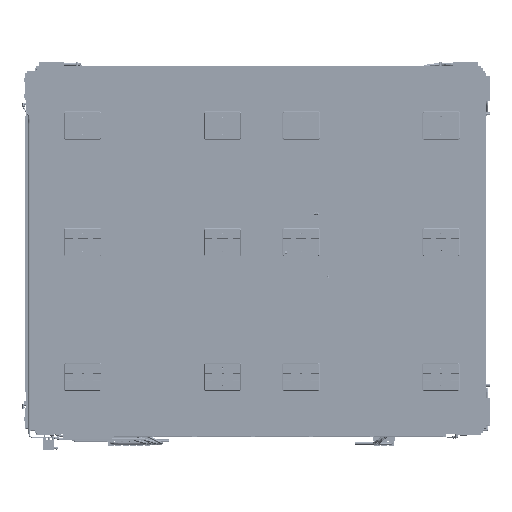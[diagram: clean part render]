
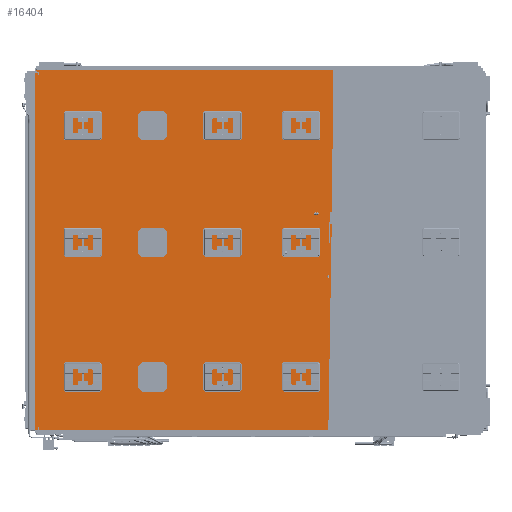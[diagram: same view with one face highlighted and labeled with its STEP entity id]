
A CAD part, front view. The second image highlights one B-rep face of the part: STEP entity #16404.
In plain terms, the highlighted planar face has unit normal (0, -1, 0).
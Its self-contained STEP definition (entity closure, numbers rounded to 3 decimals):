
#16404=ADVANCED_FACE('',(#32581),#26083,.T.);
#26083=PLANE('',#197303);
#32581=FACE_OUTER_BOUND('',#40915,.T.);
#40915=EDGE_LOOP('',(#53195,#53196,#53197,#53198));
#53195=ORIENTED_EDGE('',*,*,#110175,.T.);
#53196=ORIENTED_EDGE('',*,*,#110171,.T.);
#53197=ORIENTED_EDGE('',*,*,#110176,.F.);
#53198=ORIENTED_EDGE('',*,*,#110177,.T.);
#96274=VERTEX_POINT('',#256140);
#96275=VERTEX_POINT('',#256141);
#96278=VERTEX_POINT('',#256149);
#96279=VERTEX_POINT('',#256151);
#110171=EDGE_CURVE('',#96274,#96275,#177751,.T.);
#110175=EDGE_CURVE('',#96278,#96274,#177755,.T.);
#110176=EDGE_CURVE('',#96279,#96275,#177756,.T.);
#110177=EDGE_CURVE('',#96279,#96278,#177757,.T.);
#177751=LINE('',#256139,#188288);
#177755=LINE('',#256148,#188292);
#177756=LINE('',#256150,#188293);
#177757=LINE('',#256152,#188294);
#188288=VECTOR('',#215721,1.);
#188292=VECTOR('',#215727,1.);
#188293=VECTOR('',#215728,1.);
#188294=VECTOR('',#215729,1.);
#197303=AXIS2_PLACEMENT_3D('',#256153,#215730,#215731);
#215721=DIRECTION('',(-1.,0.,0.));
#215727=DIRECTION('',(0.,0.,1.));
#215728=DIRECTION('',(0.,0.,1.));
#215729=DIRECTION('',(1.,0.,0.));
#215730=DIRECTION('',(0.,-1.,0.));
#215731=DIRECTION('',(0.,0.,-1.));
#256139=CARTESIAN_POINT('',(1533.,0.,2487.));
#256140=CARTESIAN_POINT('',(3066.,0.,2487.));
#256141=CARTESIAN_POINT('',(0.,0.,2487.));
#256148=CARTESIAN_POINT('',(3066.,0.,0.));
#256149=CARTESIAN_POINT('',(3066.,0.,0.));
#256150=CARTESIAN_POINT('',(0.,0.,0.));
#256151=CARTESIAN_POINT('',(0.,0.,0.));
#256152=CARTESIAN_POINT('',(1533.,0.,0.));
#256153=CARTESIAN_POINT('',(1533.,0.,0.));
